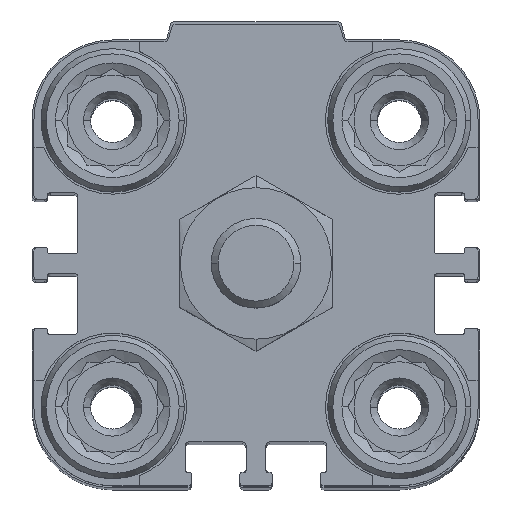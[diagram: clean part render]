
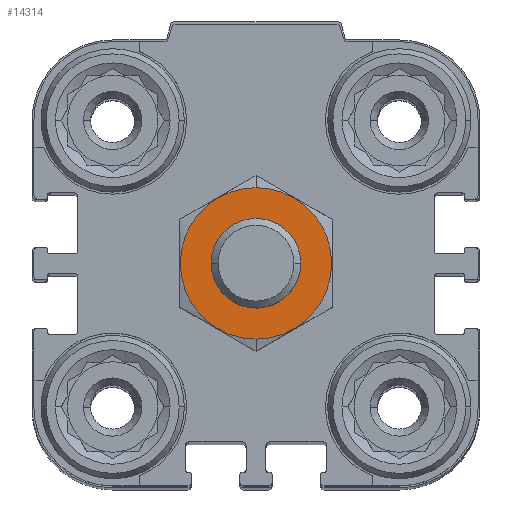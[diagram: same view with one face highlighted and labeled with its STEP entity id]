
A CAD part, top view. The second image highlights one B-rep face of the part: STEP entity #14314.
In plain terms, the highlighted planar face has unit normal (0, 0, 1).
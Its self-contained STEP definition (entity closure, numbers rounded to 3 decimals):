
#523 = CIRCLE ( 'NONE', #2872, 8.45 ) ;
#2283 = DIRECTION ( 'NONE',  ( 0., -1., 0. ) ) ;
#2492 = CARTESIAN_POINT ( 'NONE',  ( 0., 0., 15. ) ) ;
#2518 = CARTESIAN_POINT ( 'NONE',  ( 0., 0., 15. ) ) ;
#2543 = EDGE_CURVE ( 'NONE', #16252, #10775, #523, .T. ) ;
#2872 = AXIS2_PLACEMENT_3D ( 'NONE', #2518, #18982, #2283 ) ;
#2894 = CARTESIAN_POINT ( 'NONE',  ( 0., 8.45, 15. ) ) ;
#4182 = FACE_OUTER_BOUND ( 'NONE', #9233, .T. ) ;
#5000 = VERTEX_POINT ( 'NONE', #8395 ) ;
#6673 = ORIENTED_EDGE ( 'NONE', *, *, #12903, .F. ) ;
#6878 = VERTEX_POINT ( 'NONE', #20885 ) ;
#8093 = DIRECTION ( 'NONE',  ( 0., -1., 0. ) ) ;
#8180 = CARTESIAN_POINT ( 'NONE',  ( 0., 0., 15. ) ) ;
#8395 = CARTESIAN_POINT ( 'NONE',  ( 0., -5., 15. ) ) ;
#9233 = EDGE_LOOP ( 'NONE', ( #6673, #12533 ) ) ;
#10020 = PLANE ( 'NONE',  #21007 ) ;
#10452 = CARTESIAN_POINT ( 'NONE',  ( 0., -8.45, 15. ) ) ;
#10576 = CIRCLE ( 'NONE', #20703, 5. ) ;
#10775 = VERTEX_POINT ( 'NONE', #10452 ) ;
#10988 = CARTESIAN_POINT ( 'NONE',  ( 0., 0., 15. ) ) ;
#11013 = CIRCLE ( 'NONE', #14119, 5. ) ;
#12073 = FACE_BOUND ( 'NONE', #20696, .T. ) ;
#12533 = ORIENTED_EDGE ( 'NONE', *, *, #2543, .F. ) ;
#12903 = EDGE_CURVE ( 'NONE', #10775, #16252, #17464, .T. ) ;
#14119 = AXIS2_PLACEMENT_3D ( 'NONE', #2492, #17359, #8093 ) ;
#14314 = ADVANCED_FACE ( 'NONE', ( #4182, #12073 ), #10020, .F. ) ;
#14321 = ORIENTED_EDGE ( 'NONE', *, *, #23972, .T. ) ;
#16252 = VERTEX_POINT ( 'NONE', #2894 ) ;
#16474 = DIRECTION ( 'NONE',  ( 0., 0., -1. ) ) ;
#17359 = DIRECTION ( 'NONE',  ( 0., 0., -1. ) ) ;
#17464 = CIRCLE ( 'NONE', #21353, 8.45 ) ;
#18982 = DIRECTION ( 'NONE',  ( 0., 0., -1. ) ) ;
#20259 = DIRECTION ( 'NONE',  ( 0., 0., -1. ) ) ;
#20696 = EDGE_LOOP ( 'NONE', ( #23423, #14321 ) ) ;
#20703 = AXIS2_PLACEMENT_3D ( 'NONE', #10988, #16474, #24041 ) ;
#20885 = CARTESIAN_POINT ( 'NONE',  ( 0., 5., 15. ) ) ;
#21007 = AXIS2_PLACEMENT_3D ( 'NONE', #8180, #21105, #23192 ) ;
#21105 = DIRECTION ( 'NONE',  ( 0., 0., -1. ) ) ;
#21353 = AXIS2_PLACEMENT_3D ( 'NONE', #21857, #20259, #23809 ) ;
#21857 = CARTESIAN_POINT ( 'NONE',  ( 0., 0., 15. ) ) ;
#23192 = DIRECTION ( 'NONE',  ( 0., -1., 0. ) ) ;
#23423 = ORIENTED_EDGE ( 'NONE', *, *, #23720, .T. ) ;
#23720 = EDGE_CURVE ( 'NONE', #6878, #5000, #11013, .T. ) ;
#23809 = DIRECTION ( 'NONE',  ( 0., -1., 0. ) ) ;
#23972 = EDGE_CURVE ( 'NONE', #5000, #6878, #10576, .T. ) ;
#24041 = DIRECTION ( 'NONE',  ( 0., -1., 0. ) ) ;
